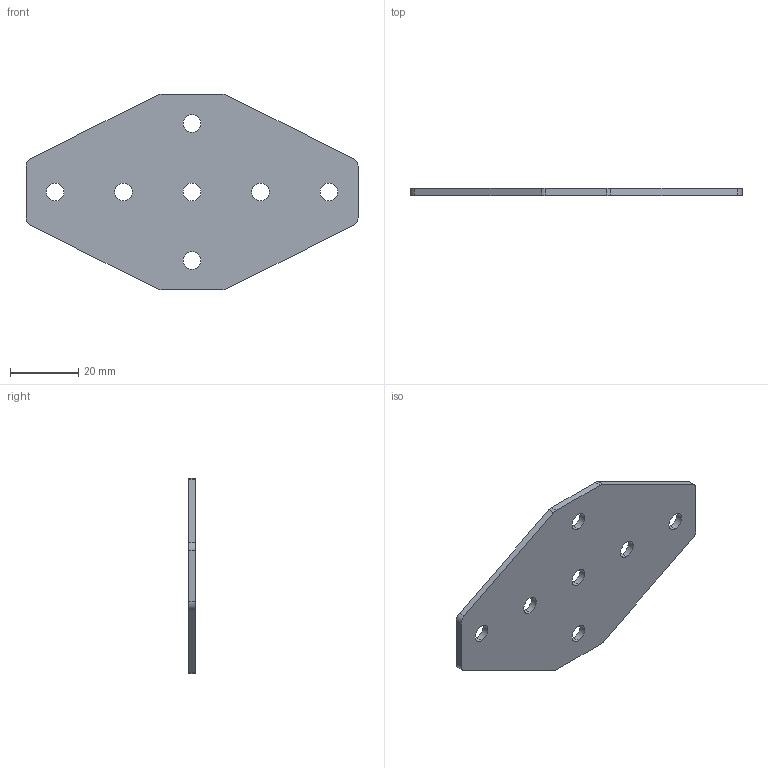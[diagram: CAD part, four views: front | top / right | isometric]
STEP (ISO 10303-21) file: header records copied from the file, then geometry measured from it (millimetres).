
FILE_DESCRIPTION (( 'STEP AP203' ), '1' );
FILE_NAME ('ﾕ-7-ﾓ-20.STEP', '2016-07-23T09:43:48', ( '' ), ( '' ), 'SwSTEP 2.0', 'SolidWorks 2014', '' );
FILE_SCHEMA (( 'CONFIG_CONTROL_DESIGN' ));
Length unit declared in the file: millimetre
Products named in the file (1): ﾕ-7-ﾓ-20
Bounding box: 97 x 2 x 57 mm (x, y, z)
Surface area: 8461.2 mm2 (no closed solid volume)
Topology: 0 solids, 1 shells, 32 faces, 90 edges, 60 vertices
Faces by surface type: cylinder 22, plane 10
Entity records: 1163 total; most frequent: DIRECTION 200, CARTESIAN_POINT 183, ORIENTED_EDGE 180, EDGE_CURVE 90, AXIS2_PLACEMENT_3D 77, VERTEX_POINT 60, EDGE_LOOP 46, LINE 46
